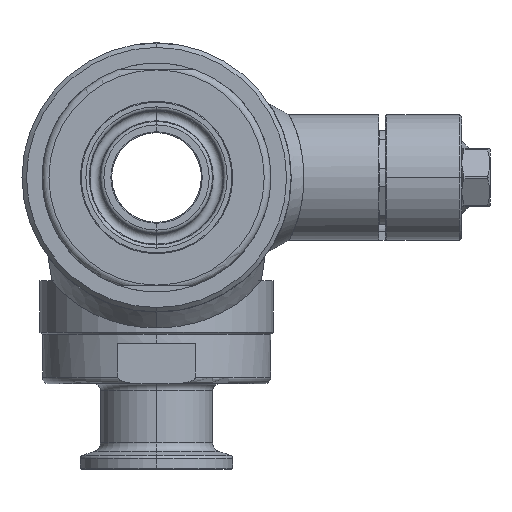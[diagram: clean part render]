
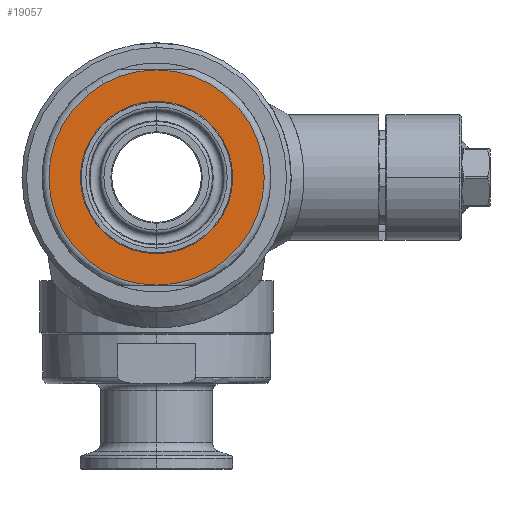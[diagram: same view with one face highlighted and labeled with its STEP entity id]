
A CAD part, front view. The second image highlights one B-rep face of the part: STEP entity #19057.
In plain terms, the highlighted planar face has unit normal (0, -1, 0).
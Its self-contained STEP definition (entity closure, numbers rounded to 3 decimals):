
#18494=CARTESIAN_POINT('',(0.,-46.,0.));
#18495=DIRECTION('',(0.,1.,0.));
#18496=DIRECTION('',(0.,0.,-1.));
#18497=AXIS2_PLACEMENT_3D('',#18494,#18495,#18496);
#18550=CARTESIAN_POINT('',(0.,-46.,0.));
#18551=DIRECTION('',(0.,-1.,0.));
#18552=DIRECTION('',(0.,0.,-1.));
#18553=AXIS2_PLACEMENT_3D('',#18550,#18551,#18552);
#18578=CARTESIAN_POINT('',(0.,-46.,0.));
#18579=DIRECTION('',(0.,1.,0.));
#18580=DIRECTION('',(0.,0.,-1.));
#18581=AXIS2_PLACEMENT_3D('',#18578,#18579,#18580);
#18588=CARTESIAN_POINT('',(0.,-46.,0.));
#18589=DIRECTION('',(0.,-1.,0.));
#18590=DIRECTION('',(0.,0.,-1.));
#18591=AXIS2_PLACEMENT_3D('',#18588,#18589,#18590);
#18866=CARTESIAN_POINT('',(0.,-46.,-24.));
#18867=CARTESIAN_POINT('',(0.,-46.,24.));
#18868=VERTEX_POINT('',#18866);
#18869=VERTEX_POINT('',#18867);
#18874=CARTESIAN_POINT('',(0.,-46.,-14.));
#18875=CARTESIAN_POINT('',(0.,-46.,14.));
#18876=VERTEX_POINT('',#18874);
#18877=VERTEX_POINT('',#18875);
#19040=CARTESIAN_POINT('',(0.,-46.,0.));
#19041=DIRECTION('',(0.,-1.,0.));
#19042=DIRECTION('',(0.,0.,1.));
#19043=AXIS2_PLACEMENT_3D('',#19040,#19041,#19042);
#19044=PLANE('',#19043);
#19046=ORIENTED_EDGE('',*,*,#19045,.F.);
#19048=ORIENTED_EDGE('',*,*,#19047,.T.);
#19049=EDGE_LOOP('',(#19046,#19048));
#19050=FACE_OUTER_BOUND('',#19049,.F.);
#19052=ORIENTED_EDGE('',*,*,#19051,.F.);
#19054=ORIENTED_EDGE('',*,*,#19053,.T.);
#19055=EDGE_LOOP('',(#19052,#19054));
#19056=FACE_BOUND('',#19055,.F.);
#19057=ADVANCED_FACE('',(#19050,#19056),#19044,.T.);
#18498=CIRCLE('',#18497,24.);
#18554=CIRCLE('',#18553,24.);
#18582=CIRCLE('',#18581,14.);
#18592=CIRCLE('',#18591,14.);
#19045=EDGE_CURVE('',#18868,#18869,#18554,.T.);
#19047=EDGE_CURVE('',#18868,#18869,#18498,.T.);
#19051=EDGE_CURVE('',#18876,#18877,#18582,.T.);
#19053=EDGE_CURVE('',#18876,#18877,#18592,.T.);
